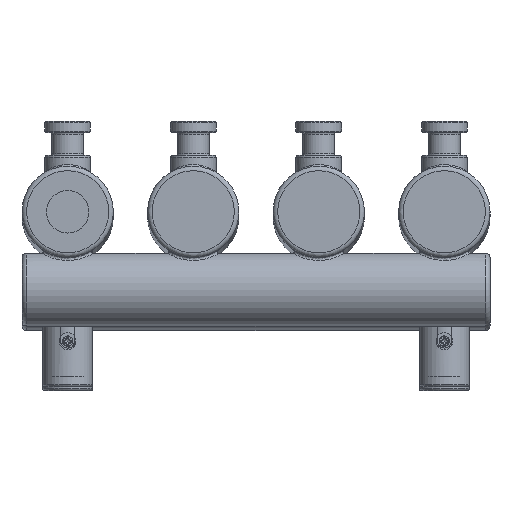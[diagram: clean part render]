
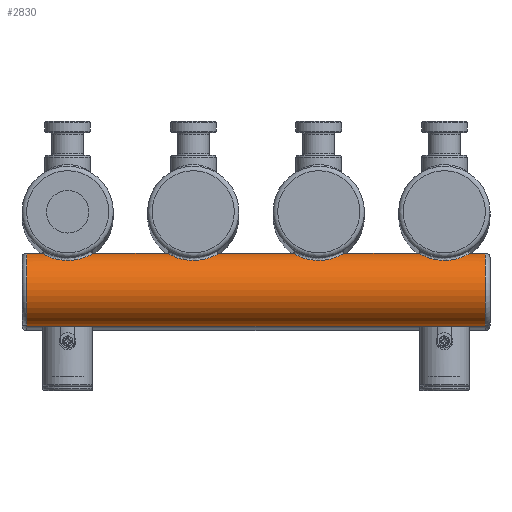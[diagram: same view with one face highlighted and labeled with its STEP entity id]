
A CAD part, top view. The second image highlights one B-rep face of the part: STEP entity #2830.
In plain terms, the highlighted cylindrical face has radius 16 mm (diameter 32 mm), a full revolution.
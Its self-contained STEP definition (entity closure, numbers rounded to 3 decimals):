
#207=FACE_BOUND('',#665,.T.);
#208=FACE_BOUND('',#666,.T.);
#209=FACE_BOUND('',#667,.T.);
#210=FACE_BOUND('',#668,.T.);
#239=LINE('',#5701,#329);
#329=VECTOR('',#3544,16.);
#419=CYLINDRICAL_SURFACE('',#3069,16.);
#467=FACE_OUTER_BOUND('',#664,.T.);
#664=EDGE_LOOP('',(#1992,#1993,#1994,#1995));
#665=EDGE_LOOP('',(#1996));
#666=EDGE_LOOP('',(#1997));
#667=EDGE_LOOP('',(#1998));
#668=EDGE_LOOP('',(#1999));
#878=B_SPLINE_CURVE_WITH_KNOTS('',3,(#5677,#5678,#5679,#5680,#5681,#5682,
#5683,#5684,#5685,#5686,#5687,#5688,#5689,#5690,#5691,#5692,#5693,#5694,
#5695,#5696),.UNSPECIFIED.,.T.,.F.,(4,1,1,1,1,1,1,1,1,1,1,1,1,1,1,1,1,4),
(0.,0.367,0.733,1.1,1.466,
1.711,1.955,2.199,2.444,2.933,
3.177,3.421,3.666,3.788,3.91,
4.399,4.765,5.132),.UNSPECIFIED.);
#879=B_SPLINE_CURVE_WITH_KNOTS('',3,(#5704,#5705,#5706,#5707,#5708,#5709,
#5710,#5711,#5712,#5713,#5714,#5715,#5716,#5717,#5718,#5719,#5720,#5721,
#5722),.UNSPECIFIED.,.T.,.F.,(4,1,1,1,1,1,1,1,1,1,1,1,1,1,1,1,4),(0.,0.367,
0.733,1.1,1.466,1.711,1.955,
2.199,2.444,2.933,3.177,3.421,
3.666,3.91,4.399,4.765,5.132),
 .UNSPECIFIED.);
#880=B_SPLINE_CURVE_WITH_KNOTS('',3,(#5724,#5725,#5726,#5727,#5728,#5729,
#5730,#5731,#5732,#5733,#5734,#5735,#5736,#5737,#5738,#5739,#5740,#5741,
#5742,#5743,#5744),.UNSPECIFIED.,.T.,.F.,(4,1,1,1,1,1,1,1,1,1,1,1,1,1,1,
1,1,1,4),(0.,0.367,0.733,0.916,1.1,
1.466,1.711,1.955,2.199,2.444,
2.688,2.933,3.177,3.421,3.666,
3.91,4.399,4.765,5.132),
 .UNSPECIFIED.);
#881=B_SPLINE_CURVE_WITH_KNOTS('',3,(#5746,#5747,#5748,#5749,#5750,#5751,
#5752,#5753,#5754,#5755,#5756,#5757,#5758,#5759,#5760,#5761,#5762,#5763,
#5764,#5765,#5766),.UNSPECIFIED.,.T.,.F.,(4,1,1,1,1,1,1,1,1,1,1,1,1,1,1,
1,1,1,4),(0.,0.367,0.733,0.916,1.1,
1.466,1.711,1.955,2.199,2.444,
2.688,2.933,3.177,3.421,3.666,
3.91,4.399,4.765,5.132),
 .UNSPECIFIED.);
#942=CIRCLE('',#3070,16.);
#943=CIRCLE('',#3071,16.);
#1216=VERTEX_POINT('',#5675);
#1217=VERTEX_POINT('',#5698);
#1218=VERTEX_POINT('',#5700);
#1219=VERTEX_POINT('',#5703);
#1220=VERTEX_POINT('',#5723);
#1221=VERTEX_POINT('',#5745);
#1532=EDGE_CURVE('',#1216,#1216,#878,.T.);
#1533=EDGE_CURVE('',#1217,#1217,#942,.T.);
#1534=EDGE_CURVE('',#1217,#1218,#239,.T.);
#1535=EDGE_CURVE('',#1218,#1218,#943,.T.);
#1536=EDGE_CURVE('',#1219,#1219,#879,.T.);
#1537=EDGE_CURVE('',#1220,#1220,#880,.T.);
#1538=EDGE_CURVE('',#1221,#1221,#881,.T.);
#1992=ORIENTED_EDGE('',*,*,#1533,.F.);
#1993=ORIENTED_EDGE('',*,*,#1534,.T.);
#1994=ORIENTED_EDGE('',*,*,#1535,.F.);
#1995=ORIENTED_EDGE('',*,*,#1534,.F.);
#1996=ORIENTED_EDGE('',*,*,#1536,.F.);
#1997=ORIENTED_EDGE('',*,*,#1537,.F.);
#1998=ORIENTED_EDGE('',*,*,#1538,.F.);
#1999=ORIENTED_EDGE('',*,*,#1532,.F.);
#2830=ADVANCED_FACE('',(#467,#207,#208,#209,#210),#419,.T.);
#3069=AXIS2_PLACEMENT_3D('',#5697,#3540,#3541);
#3070=AXIS2_PLACEMENT_3D('',#5699,#3542,#3543);
#3071=AXIS2_PLACEMENT_3D('',#5702,#3545,#3546);
#3540=DIRECTION('center_axis',(-1.,0.,0.));
#3541=DIRECTION('ref_axis',(0.,0.,1.));
#3542=DIRECTION('center_axis',(-1.,0.,0.));
#3543=DIRECTION('ref_axis',(0.,0.,1.));
#3544=DIRECTION('',(1.,0.,0.));
#3545=DIRECTION('center_axis',(1.,0.,0.));
#3546=DIRECTION('ref_axis',(0.,0.,1.));
#5675=CARTESIAN_POINT('',(-165.,-21.257,1169.676));
#5677=CARTESIAN_POINT('Ctrl Pts',(-165.,-21.257,1169.676));
#5678=CARTESIAN_POINT('Ctrl Pts',(-163.333,-21.257,1169.676));
#5679=CARTESIAN_POINT('Ctrl Pts',(-159.996,-20.861,1169.184));
#5680=CARTESIAN_POINT('Ctrl Pts',(-155.827,-19.326,1166.733));
#5681=CARTESIAN_POINT('Ctrl Pts',(-153.534,-17.944,1162.49));
#5682=CARTESIAN_POINT('Ctrl Pts',(-153.54,-17.945,1158.066));
#5683=CARTESIAN_POINT('Ctrl Pts',(-155.013,-18.83,1154.662));
#5684=CARTESIAN_POINT('Ctrl Pts',(-157.203,-19.859,1152.416));
#5685=CARTESIAN_POINT('Ctrl Pts',(-160.073,-20.764,1150.975));
#5686=CARTESIAN_POINT('Ctrl Pts',(-164.399,-21.457,1150.075));
#5687=CARTESIAN_POINT('Ctrl Pts',(-168.971,-21.078,1150.503));
#5688=CARTESIAN_POINT('Ctrl Pts',(-172.8,-19.857,1152.414));
#5689=CARTESIAN_POINT('Ctrl Pts',(-174.986,-18.832,1154.665));
#5690=CARTESIAN_POINT('Ctrl Pts',(-176.042,-18.2,1157.097));
#5691=CARTESIAN_POINT('Ctrl Pts',(-176.377,-17.994,1159.199));
#5692=CARTESIAN_POINT('Ctrl Pts',(-176.387,-17.977,1162.416));
#5693=CARTESIAN_POINT('Ctrl Pts',(-174.642,-19.138,1166.466));
#5694=CARTESIAN_POINT('Ctrl Pts',(-170.,-20.87,1169.18));
#5695=CARTESIAN_POINT('Ctrl Pts',(-166.667,-21.257,1169.676));
#5696=CARTESIAN_POINT('Ctrl Pts',(-165.,-21.257,1169.676));
#5697=CARTESIAN_POINT('Origin',(20.,-34.,1160.));
#5698=CARTESIAN_POINT('',(-183.,-34.,1144.));
#5699=CARTESIAN_POINT('Origin',(-183.,-34.,1160.));
#5700=CARTESIAN_POINT('',(18.,-34.,1144.));
#5701=CARTESIAN_POINT('',(20.,-34.,1144.));
#5702=CARTESIAN_POINT('Origin',(18.,-34.,1160.));
#5703=CARTESIAN_POINT('',(-110.,-21.257,1169.676));
#5704=CARTESIAN_POINT('Ctrl Pts',(-110.,-21.257,1169.676));
#5705=CARTESIAN_POINT('Ctrl Pts',(-108.333,-21.257,1169.676));
#5706=CARTESIAN_POINT('Ctrl Pts',(-104.996,-20.861,1169.183));
#5707=CARTESIAN_POINT('Ctrl Pts',(-100.824,-19.321,1166.735));
#5708=CARTESIAN_POINT('Ctrl Pts',(-98.535,-17.944,1162.489));
#5709=CARTESIAN_POINT('Ctrl Pts',(-98.541,-17.949,1158.065));
#5710=CARTESIAN_POINT('Ctrl Pts',(-100.014,-18.832,1154.661));
#5711=CARTESIAN_POINT('Ctrl Pts',(-102.203,-19.862,1152.415));
#5712=CARTESIAN_POINT('Ctrl Pts',(-105.073,-20.765,1150.975));
#5713=CARTESIAN_POINT('Ctrl Pts',(-109.399,-21.459,1150.075));
#5714=CARTESIAN_POINT('Ctrl Pts',(-113.971,-21.078,1150.504));
#5715=CARTESIAN_POINT('Ctrl Pts',(-117.798,-19.859,1152.414));
#5716=CARTESIAN_POINT('Ctrl Pts',(-119.989,-18.831,1154.665));
#5717=CARTESIAN_POINT('Ctrl Pts',(-121.247,-18.084,1157.578));
#5718=CARTESIAN_POINT('Ctrl Pts',(-121.602,-17.836,1161.907));
#5719=CARTESIAN_POINT('Ctrl Pts',(-119.645,-19.134,1166.468));
#5720=CARTESIAN_POINT('Ctrl Pts',(-114.999,-20.872,1169.179));
#5721=CARTESIAN_POINT('Ctrl Pts',(-111.667,-21.257,1169.676));
#5722=CARTESIAN_POINT('Ctrl Pts',(-110.,-21.257,1169.676));
#5723=CARTESIAN_POINT('',(0.,-21.257,1169.676));
#5724=CARTESIAN_POINT('Ctrl Pts',(0.,-21.257,
1169.676));
#5725=CARTESIAN_POINT('Ctrl Pts',(1.667,-21.257,1169.676));
#5726=CARTESIAN_POINT('Ctrl Pts',(5.008,-20.858,1169.186));
#5727=CARTESIAN_POINT('Ctrl Pts',(8.474,-19.582,1167.138));
#5728=CARTESIAN_POINT('Ctrl Pts',(10.325,-18.63,1164.615));
#5729=CARTESIAN_POINT('Ctrl Pts',(11.461,-17.949,1161.659));
#5730=CARTESIAN_POINT('Ctrl Pts',(11.462,-17.947,1158.066));
#5731=CARTESIAN_POINT('Ctrl Pts',(9.987,-18.833,1154.662));
#5732=CARTESIAN_POINT('Ctrl Pts',(7.797,-19.86,1152.415));
#5733=CARTESIAN_POINT('Ctrl Pts',(4.928,-20.768,1150.978));
#5734=CARTESIAN_POINT('Ctrl Pts',(1.682,-21.278,1150.296));
#5735=CARTESIAN_POINT('Ctrl Pts',(-1.682,-21.279,1150.296));
#5736=CARTESIAN_POINT('Ctrl Pts',(-4.929,-20.768,1150.978));
#5737=CARTESIAN_POINT('Ctrl Pts',(-7.797,-19.862,1152.415));
#5738=CARTESIAN_POINT('Ctrl Pts',(-9.989,-18.829,1154.664));
#5739=CARTESIAN_POINT('Ctrl Pts',(-11.247,-18.084,1157.578));
#5740=CARTESIAN_POINT('Ctrl Pts',(-11.602,-17.835,1161.907));
#5741=CARTESIAN_POINT('Ctrl Pts',(-9.645,-19.134,1166.468));
#5742=CARTESIAN_POINT('Ctrl Pts',(-4.999,-20.872,1169.179));
#5743=CARTESIAN_POINT('Ctrl Pts',(-1.667,-21.257,1169.676));
#5744=CARTESIAN_POINT('Ctrl Pts',(0.,-21.257,
1169.676));
#5745=CARTESIAN_POINT('',(-55.,-21.257,1169.676));
#5746=CARTESIAN_POINT('Ctrl Pts',(-55.,-21.257,1169.676));
#5747=CARTESIAN_POINT('Ctrl Pts',(-53.333,-21.257,1169.676));
#5748=CARTESIAN_POINT('Ctrl Pts',(-49.992,-20.858,1169.186));
#5749=CARTESIAN_POINT('Ctrl Pts',(-46.526,-19.582,1167.138));
#5750=CARTESIAN_POINT('Ctrl Pts',(-44.675,-18.63,1164.615));
#5751=CARTESIAN_POINT('Ctrl Pts',(-43.539,-17.949,1161.659));
#5752=CARTESIAN_POINT('Ctrl Pts',(-43.538,-17.947,1158.067));
#5753=CARTESIAN_POINT('Ctrl Pts',(-45.013,-18.833,1154.662));
#5754=CARTESIAN_POINT('Ctrl Pts',(-47.203,-19.86,1152.415));
#5755=CARTESIAN_POINT('Ctrl Pts',(-50.072,-20.768,1150.978));
#5756=CARTESIAN_POINT('Ctrl Pts',(-53.318,-21.278,1150.296));
#5757=CARTESIAN_POINT('Ctrl Pts',(-56.682,-21.279,1150.296));
#5758=CARTESIAN_POINT('Ctrl Pts',(-59.929,-20.768,1150.978));
#5759=CARTESIAN_POINT('Ctrl Pts',(-62.797,-19.862,1152.416));
#5760=CARTESIAN_POINT('Ctrl Pts',(-64.989,-18.829,1154.664));
#5761=CARTESIAN_POINT('Ctrl Pts',(-66.247,-18.084,1157.578));
#5762=CARTESIAN_POINT('Ctrl Pts',(-66.602,-17.835,1161.907));
#5763=CARTESIAN_POINT('Ctrl Pts',(-64.645,-19.134,1166.468));
#5764=CARTESIAN_POINT('Ctrl Pts',(-59.999,-20.872,1169.179));
#5765=CARTESIAN_POINT('Ctrl Pts',(-56.667,-21.257,1169.676));
#5766=CARTESIAN_POINT('Ctrl Pts',(-55.,-21.257,1169.676));
